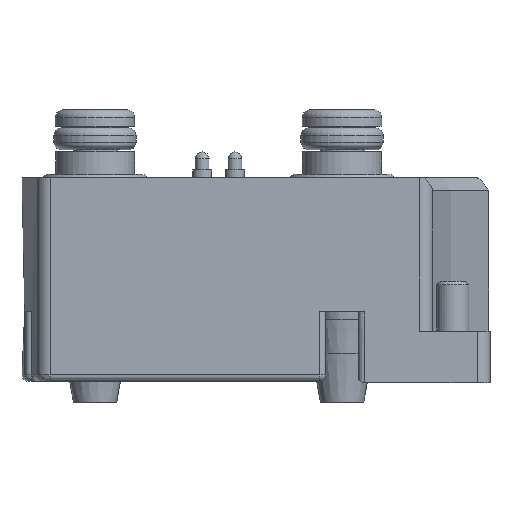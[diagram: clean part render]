
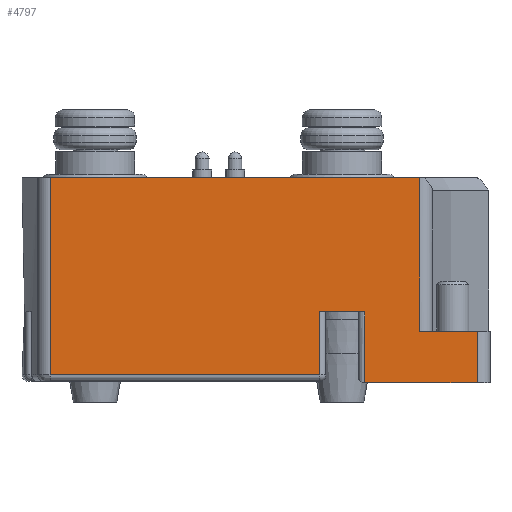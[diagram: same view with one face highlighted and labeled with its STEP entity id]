
A CAD part, left-side view. The second image highlights one B-rep face of the part: STEP entity #4797.
In plain terms, the highlighted planar face has unit normal (-1, 0, 0).
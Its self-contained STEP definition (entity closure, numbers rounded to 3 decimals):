
#269=LINE('',#7510,#442);
#270=LINE('',#7515,#443);
#280=LINE('',#7545,#453);
#281=LINE('',#7547,#454);
#282=LINE('',#7549,#455);
#283=LINE('',#7551,#456);
#284=LINE('',#7552,#457);
#285=LINE('',#7553,#458);
#286=LINE('',#7555,#459);
#287=LINE('',#7556,#460);
#442=VECTOR('',#5941,10.);
#443=VECTOR('',#5946,10.);
#453=VECTOR('',#5972,10.);
#454=VECTOR('',#5973,10.);
#455=VECTOR('',#5974,10.);
#456=VECTOR('',#5975,10.);
#457=VECTOR('',#5976,10.);
#458=VECTOR('',#5977,10.);
#459=VECTOR('',#5978,10.);
#460=VECTOR('',#5979,10.);
#602=PLANE('',#5195);
#963=FACE_OUTER_BOUND('',#1319,.T.);
#1319=EDGE_LOOP('',(#3308,#3309,#3310,#3311,#3312,#3313,#3314,#3315,#3316,
#3317));
#2223=VERTEX_POINT('',#7507);
#2224=VERTEX_POINT('',#7509);
#2225=VERTEX_POINT('',#7513);
#2226=VERTEX_POINT('',#7514);
#2237=VERTEX_POINT('',#7543);
#2238=VERTEX_POINT('',#7544);
#2239=VERTEX_POINT('',#7546);
#2240=VERTEX_POINT('',#7548);
#2241=VERTEX_POINT('',#7550);
#2242=VERTEX_POINT('',#7554);
#2674=EDGE_CURVE('',#2224,#2223,#269,.T.);
#2676=EDGE_CURVE('',#2225,#2226,#270,.T.);
#2690=EDGE_CURVE('',#2237,#2238,#280,.T.);
#2691=EDGE_CURVE('',#2237,#2239,#281,.T.);
#2692=EDGE_CURVE('',#2240,#2239,#282,.T.);
#2693=EDGE_CURVE('',#2240,#2241,#283,.T.);
#2694=EDGE_CURVE('',#2241,#2224,#284,.T.);
#2695=EDGE_CURVE('',#2225,#2223,#285,.T.);
#2696=EDGE_CURVE('',#2226,#2242,#286,.T.);
#2697=EDGE_CURVE('',#2242,#2238,#287,.T.);
#3308=ORIENTED_EDGE('',*,*,#2690,.F.);
#3309=ORIENTED_EDGE('',*,*,#2691,.T.);
#3310=ORIENTED_EDGE('',*,*,#2692,.F.);
#3311=ORIENTED_EDGE('',*,*,#2693,.T.);
#3312=ORIENTED_EDGE('',*,*,#2694,.T.);
#3313=ORIENTED_EDGE('',*,*,#2674,.T.);
#3314=ORIENTED_EDGE('',*,*,#2695,.F.);
#3315=ORIENTED_EDGE('',*,*,#2676,.T.);
#3316=ORIENTED_EDGE('',*,*,#2696,.T.);
#3317=ORIENTED_EDGE('',*,*,#2697,.T.);
#4797=ADVANCED_FACE('',(#963),#602,.F.);
#5195=AXIS2_PLACEMENT_3D('',#7542,#5970,#5971);
#5941=DIRECTION('',(0.,0.,1.));
#5946=DIRECTION('',(0.,0.,-1.));
#5970=DIRECTION('center_axis',(1.,0.,0.));
#5971=DIRECTION('ref_axis',(0.,0.,
-1.));
#5972=DIRECTION('',(0.,1.,0.));
#5973=DIRECTION('',(0.,0.,-1.));
#5974=DIRECTION('',(0.,1.,0.));
#5975=DIRECTION('',(0.,0.,1.));
#5976=DIRECTION('',(0.,1.,0.));
#5977=DIRECTION('',(0.,-1.,0.));
#5978=DIRECTION('',(0.,-1.,0.));
#5979=DIRECTION('',(0.,0.,1.));
#7507=CARTESIAN_POINT('',(-13.,30.58,29.602));
#7509=CARTESIAN_POINT('',(-13.,30.58,17.652));
#7510=CARTESIAN_POINT('',(-13.,30.58,17.652));
#7513=CARTESIAN_POINT('',(-13.,59.298,29.602));
#7514=CARTESIAN_POINT('',(-13.,59.298,14.252));
#7515=CARTESIAN_POINT('',(-13.,59.298,13.752));
#7542=CARTESIAN_POINT('Origin',(-13.,60.11,13.652));
#7543=CARTESIAN_POINT('',(-13.,34.85,19.152));
#7544=CARTESIAN_POINT('',(-13.,38.35,19.152));
#7545=CARTESIAN_POINT('',(-13.,54.48,19.152));
#7546=CARTESIAN_POINT('',(-13.,34.85,13.652));
#7547=CARTESIAN_POINT('',(-13.,34.85,13.652));
#7548=CARTESIAN_POINT('',(-13.,26.1,13.652));
#7549=CARTESIAN_POINT('',(-13.,25.1,13.652));
#7550=CARTESIAN_POINT('',(-13.,26.1,17.652));
#7551=CARTESIAN_POINT('',(-13.,26.1,13.652));
#7552=CARTESIAN_POINT('',(-13.,30.055,17.652));
#7553=CARTESIAN_POINT('',(-13.,25.1,29.602));
#7554=CARTESIAN_POINT('',(-13.,38.35,14.252));
#7555=CARTESIAN_POINT('',(-13.,55.4,14.252));
#7556=CARTESIAN_POINT('',(-13.,38.35,16.452));
